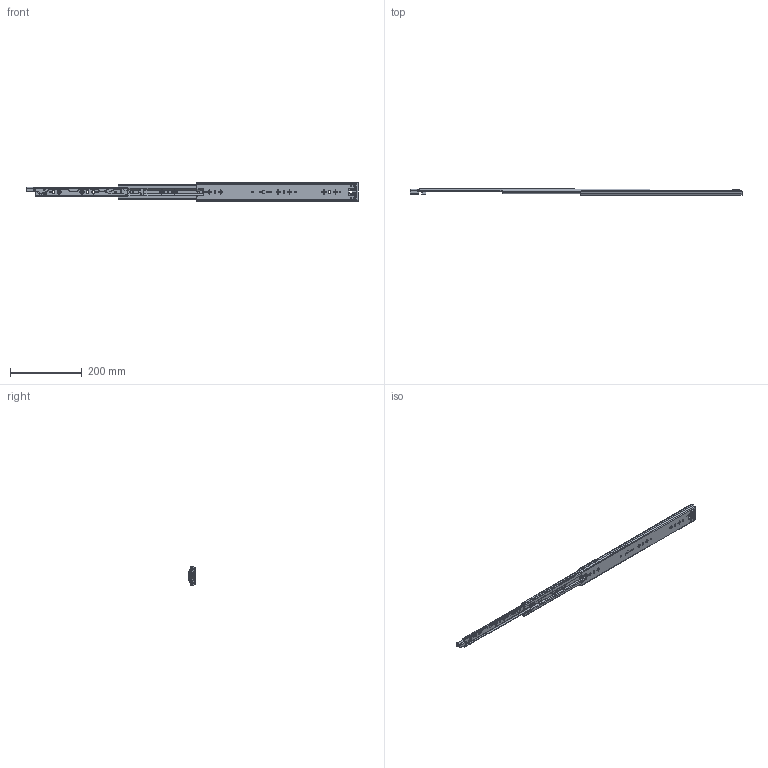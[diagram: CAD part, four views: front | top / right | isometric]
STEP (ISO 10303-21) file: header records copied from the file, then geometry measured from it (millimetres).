
FILE_DESCRIPTION((''),'2;1');
FILE_NAME('1053-3S-18YOU_ASM','2023-04-11T',('jishu015'),(''),'PRO/ENGINEER BY PARAMETRIC TECHNOLOGY CORPORATION, 2010280','PRO/ENGINEER BY PARAMETRIC TECHNOLOGY CORPORATION, 2010280','');
FILE_SCHEMA(('CONFIG_CONTROL_DESIGN'));
Length unit declared in the file: millimetre
Products named in the file (20): 1053-02-18WAIKE12___; 1053WEIJIAO12___; 1053-3S-24WAIKE12____ASM; 1053ZHUTIAO-17521___; 53-5-6GANZHU21___; 1053ZHUTIAO-175MM21____ASM; 1053-02-18ZHONGGUI21___; ZHONGGUIPEIJIAN21___; ZHONGGUISUOKOU21___; 1053-02-18ZHONGGUI21____ASM; 1053XIAOZHUJIA-14GE21___; 1053XIAOZHUJIA-14GE21____ASM; 1053-02-18NEIGUI21___; DAOPIAN21___; PIAN21___; 1053-3SBANJI12321___; JIAO-121___; 50XINSUOKOU2___; 1053-02-18NEIGUI21____ASM; 1053-3S-18YOU_ASM
Assembly tree (54 placements, depth 3):
  1053-3S-18YOU_ASM
    1053-3S-24WAIKE12____ASM
      1053-02-18WAIKE12___
      1053WEIJIAO12___
    1053ZHUTIAO-175MM21____ASM  x2
      1053ZHUTIAO-17521___
      53-5-6GANZHU21___
    1053-02-18ZHONGGUI21____ASM
      1053-02-18ZHONGGUI21___
      ZHONGGUIPEIJIAN21___
      ZHONGGUISUOKOU21___
    1053XIAOZHUJIA-14GE21____ASM
      1053XIAOZHUJIA-14GE21___
      53-5-6GANZHU21___  x28
    1053-02-18NEIGUI21____ASM
      1053-02-18NEIGUI21___
      DAOPIAN21___
      PIAN21___
      1053-3SBANJI12321___
      JIAO-121___
      50XINSUOKOU2___
Bounding box: 926.92 x 18.7 x 53 mm (x, y, z)
Volume: 170135.2 mm3; surface area: 196347.2 mm2
Topology: 57 solids, 57 shells, 1741 faces, 4989 edges, 3145 vertices
Faces by surface type: plane 735, cylinder 726, sphere 92, bspline 87, cone 62, extrusion 23, torus 16
Entity records: 58318 total; most frequent: CARTESIAN_POINT 15202, ORIENTED_EDGE 9156, DIRECTION 8811, EDGE_CURVE 4578, AXIS2_PLACEMENT_3D 3043, VERTEX_POINT 2962, VECTOR 2725, LINE 2702
